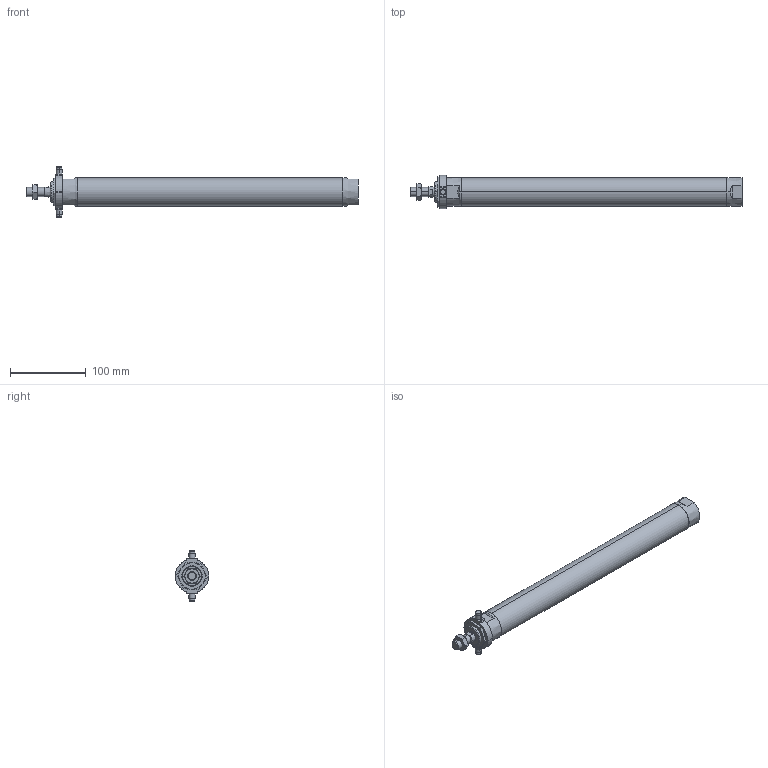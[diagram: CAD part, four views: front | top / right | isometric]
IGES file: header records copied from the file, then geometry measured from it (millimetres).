
Start section: SolidWorks IGES file using analytic representation for surfaces
Global section: file name: C:\Users\Toshiba\Desktop\JGND2-32-300-T.IGS; native system: SolidWorks 2014; preprocessor: SolidWorks 2014; author: Toshiba; date: 160804.110359; units: millimetre
Bounding box: 437 x 44 x 66 mm (x, y, z)
Surface area: 59321.8 mm2 (no closed solid volume)
Topology: 0 solids, 0 shells, 128 faces, 2076 edges, 2072 vertices
Faces by surface type: bspline 66, revolution 62
